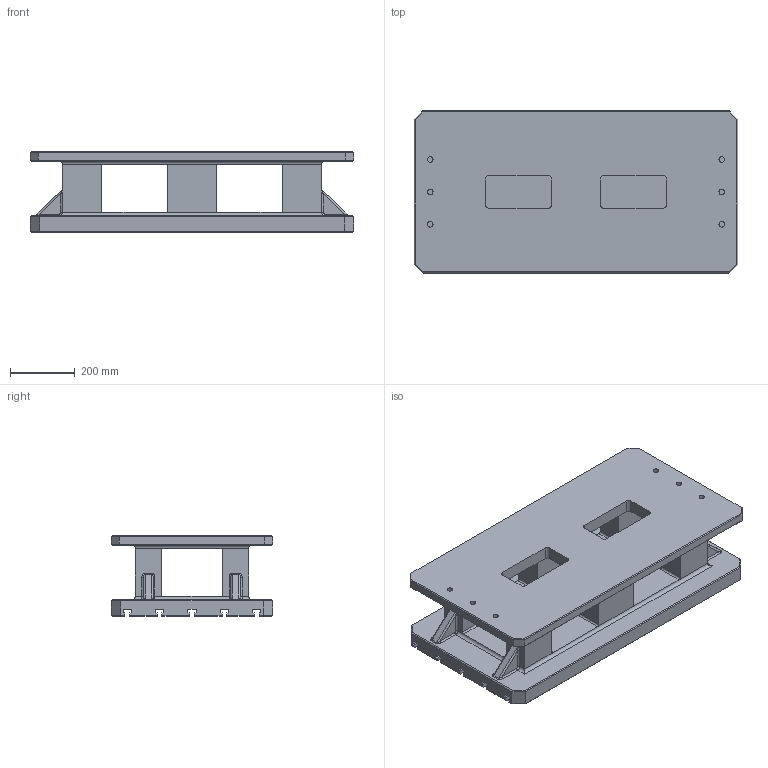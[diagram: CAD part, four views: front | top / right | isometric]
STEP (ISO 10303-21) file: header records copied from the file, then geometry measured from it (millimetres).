
FILE_DESCRIPTION((''),'2;1');
FILE_NAME('FG_WH_RISTL_TSLOTNP005','2026-05-24T11:43:07',('Admin'),(''),'CREO PARAMETRIC BY PTC INC, 2025010','CREO PARAMETRIC BY PTC INC, 2025010','');
FILE_SCHEMA(('CONFIG_CONTROL_DESIGN'));
Length unit declared in the file: millimetre
Products named in the file (1): FG_WH_RISTL_TSLOTNP005
Bounding box: 1000 x 500 x 250 mm (x, y, z)
Volume: 52253895.4 mm3; surface area: 2810904.1 mm2
Topology: 1 solids, 1 shells, 282 faces, 718 edges, 436 vertices
Faces by surface type: plane 154, cylinder 104, bspline 24
Entity records: 9894 total; most frequent: CARTESIAN_POINT 3138, ORIENTED_EDGE 1436, DIRECTION 1330, EDGE_CURVE 718, VECTOR 510, LINE 510, VERTEX_POINT 436, AXIS2_PLACEMENT_3D 410
